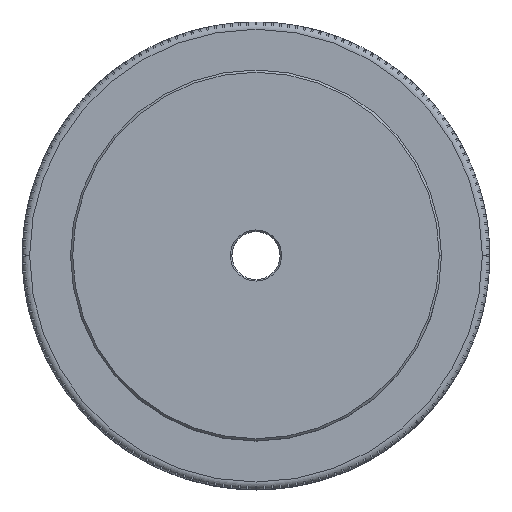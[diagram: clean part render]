
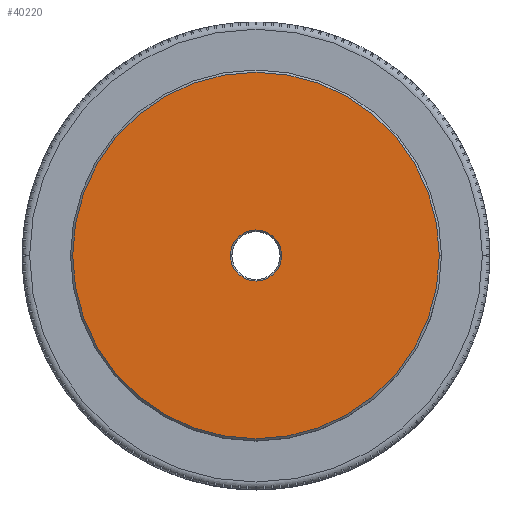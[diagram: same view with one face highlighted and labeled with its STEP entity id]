
A CAD part, top view. The second image highlights one B-rep face of the part: STEP entity #40220.
In plain terms, the highlighted planar face has unit normal (0, 0, 1).
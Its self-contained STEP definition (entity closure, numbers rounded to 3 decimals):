
#3142 = AXIS2_PLACEMENT_3D ( 'NONE', #36576, #40141, #12353 ) ;
#3570 = CARTESIAN_POINT ( 'NONE',  ( 0., 0., -0.3 ) ) ;
#4462 = VERTEX_POINT ( 'NONE', #16091 ) ;
#4485 = EDGE_CURVE ( 'NONE', #35108, #26507, #19471, .T. ) ;
#5032 = DIRECTION ( 'NONE',  ( 1., 0., 0. ) ) ;
#6205 = EDGE_CURVE ( 'NONE', #4462, #16221, #26627, .T. ) ;
#6677 = CARTESIAN_POINT ( 'NONE',  ( 12.55, 0., -0.3 ) ) ;
#7831 = FACE_BOUND ( 'NONE', #24057, .T. ) ;
#8336 = EDGE_LOOP ( 'NONE', ( #13585, #29106 ) ) ;
#12270 = AXIS2_PLACEMENT_3D ( 'NONE', #31110, #28226, #34243 ) ;
#12353 = DIRECTION ( 'NONE',  ( 1., 0., 0. ) ) ;
#13585 = ORIENTED_EDGE ( 'NONE', *, *, #4485, .F. ) ;
#14366 = AXIS2_PLACEMENT_3D ( 'NONE', #22263, #28962, #39004 ) ;
#14452 = PLANE ( 'NONE',  #12270 ) ;
#16091 = CARTESIAN_POINT ( 'NONE',  ( 1.75, 0., -0.3 ) ) ;
#16221 = VERTEX_POINT ( 'NONE', #34311 ) ;
#17604 = AXIS2_PLACEMENT_3D ( 'NONE', #21683, #35092, #5032 ) ;
#19471 = CIRCLE ( 'NONE', #3142, 12.55 ) ;
#19481 = EDGE_CURVE ( 'NONE', #26507, #35108, #19768, .T. ) ;
#19768 = CIRCLE ( 'NONE', #17604, 12.55 ) ;
#21683 = CARTESIAN_POINT ( 'NONE',  ( 0., 0., -0.3 ) ) ;
#22263 = CARTESIAN_POINT ( 'NONE',  ( 0., 0., -0.3 ) ) ;
#22280 = FACE_OUTER_BOUND ( 'NONE', #8336, .T. ) ;
#24057 = EDGE_LOOP ( 'NONE', ( #33571, #26670 ) ) ;
#26507 = VERTEX_POINT ( 'NONE', #6677 ) ;
#26627 = CIRCLE ( 'NONE', #32347, 1.75 ) ;
#26670 = ORIENTED_EDGE ( 'NONE', *, *, #6205, .T. ) ;
#28226 = DIRECTION ( 'NONE',  ( 0., 0., 1. ) ) ;
#28962 = DIRECTION ( 'NONE',  ( 0., 0., -1. ) ) ;
#29033 = EDGE_CURVE ( 'NONE', #16221, #4462, #43522, .T. ) ;
#29106 = ORIENTED_EDGE ( 'NONE', *, *, #19481, .F. ) ;
#30379 = CARTESIAN_POINT ( 'NONE',  ( -12.55, 0., -0.3 ) ) ;
#30499 = DIRECTION ( 'NONE',  ( 0., 0., -1. ) ) ;
#30929 = DIRECTION ( 'NONE',  ( 1., 0., 0. ) ) ;
#31110 = CARTESIAN_POINT ( 'NONE',  ( 0., 0., -0.3 ) ) ;
#32347 = AXIS2_PLACEMENT_3D ( 'NONE', #3570, #30499, #30929 ) ;
#33571 = ORIENTED_EDGE ( 'NONE', *, *, #29033, .T. ) ;
#34243 = DIRECTION ( 'NONE',  ( 1., 0., 0. ) ) ;
#34311 = CARTESIAN_POINT ( 'NONE',  ( -1.75, 0., -0.3 ) ) ;
#35092 = DIRECTION ( 'NONE',  ( 0., 0., -1. ) ) ;
#35108 = VERTEX_POINT ( 'NONE', #30379 ) ;
#36576 = CARTESIAN_POINT ( 'NONE',  ( 0., 0., -0.3 ) ) ;
#39004 = DIRECTION ( 'NONE',  ( 1., 0., 0. ) ) ;
#40141 = DIRECTION ( 'NONE',  ( 0., 0., -1. ) ) ;
#40220 = ADVANCED_FACE ( 'NONE', ( #22280, #7831 ), #14452, .T. ) ;
#43522 = CIRCLE ( 'NONE', #14366, 1.75 ) ;
